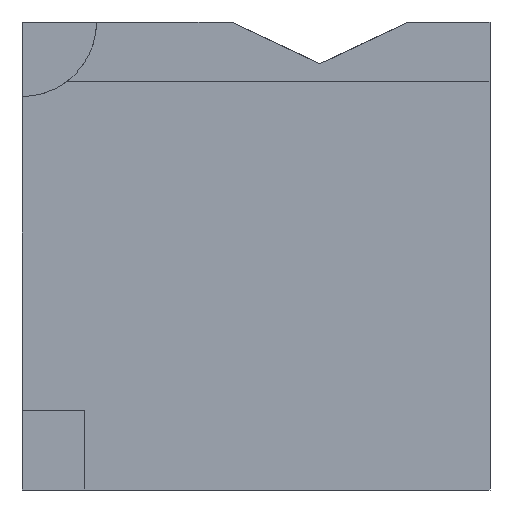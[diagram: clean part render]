
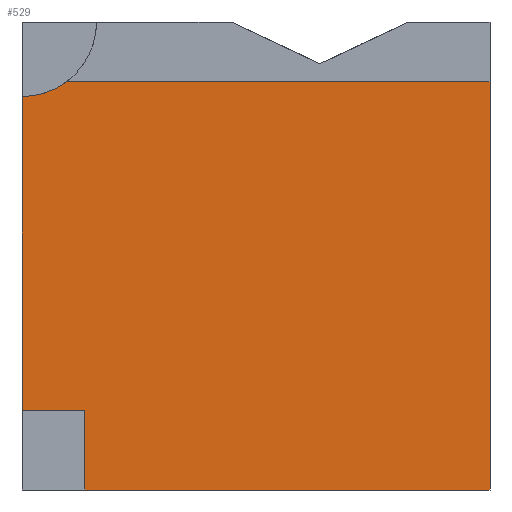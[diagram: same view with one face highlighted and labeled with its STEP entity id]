
A CAD part, front view. The second image highlights one B-rep face of the part: STEP entity #529.
In plain terms, the highlighted planar face has unit normal (0, -1, 0).
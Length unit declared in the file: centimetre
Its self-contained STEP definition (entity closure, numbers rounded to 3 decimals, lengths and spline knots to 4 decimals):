
#14 = DIRECTION ( 'NONE',  ( 1., 0., 0. ) ) ;
#21 = VERTEX_POINT ( 'NONE', #403 ) ;
#22 = CARTESIAN_POINT ( 'NONE',  ( 1000., 0., 1000. ) ) ;
#43 = VERTEX_POINT ( 'NONE', #792 ) ;
#44 = CARTESIAN_POINT ( 'NONE',  ( 1000., 0., 871.9641 ) ) ;
#45 = CARTESIAN_POINT ( 'NONE',  ( 133.5977, 0., 0. ) ) ;
#70 = ORIENTED_EDGE ( 'NONE', *, *, #617, .T. ) ;
#85 = ORIENTED_EDGE ( 'NONE', *, *, #193, .F. ) ;
#99 = EDGE_CURVE ( 'NONE', #43, #559, #517, .T. ) ;
#130 = VERTEX_POINT ( 'NONE', #653 ) ;
#145 = CARTESIAN_POINT ( 'NONE',  ( 0., 0., 1000. ) ) ;
#193 = EDGE_CURVE ( 'NONE', #429, #21, #636, .T. ) ;
#194 = DIRECTION ( 'NONE',  ( 0., 0., -1. ) ) ;
#215 = VECTOR ( 'NONE', #194, 100. ) ;
#231 = VECTOR ( 'NONE', #356, 100. ) ;
#291 = PLANE ( 'NONE',  #827 ) ;
#325 = VECTOR ( 'NONE', #537, 100. ) ;
#356 = DIRECTION ( 'NONE',  ( 0., 0., -1. ) ) ;
#361 = LINE ( 'NONE', #489, #231 ) ;
#390 = CARTESIAN_POINT ( 'NONE',  ( 133.5977, 0., 169.7912 ) ) ;
#391 = EDGE_LOOP ( 'NONE', ( #85, #397, #70, #682, #411, #609, #791 ) ) ;
#397 = ORIENTED_EDGE ( 'NONE', *, *, #824, .T. ) ;
#403 = CARTESIAN_POINT ( 'NONE',  ( 0., 0., 169.7912 ) ) ;
#411 = ORIENTED_EDGE ( 'NONE', *, *, #99, .T. ) ;
#418 = CARTESIAN_POINT ( 'NONE',  ( 94.9162, 0., 871.9641 ) ) ;
#423 = DIRECTION ( 'NONE',  ( 0., 0., -1. ) ) ;
#429 = VERTEX_POINT ( 'NONE', #390 ) ;
#489 = CARTESIAN_POINT ( 'NONE',  ( 0., 0., 1000. ) ) ;
#494 = VERTEX_POINT ( 'NONE', #680 ) ;
#517 = LINE ( 'NONE', #44, #768 ) ;
#529 = ADVANCED_FACE ( 'NONE', ( #561 ), #291, .F. ) ;
#536 = EDGE_CURVE ( 'NONE', #494, #559, #742, .T. ) ;
#537 = DIRECTION ( 'NONE',  ( 0., 0., -1. ) ) ;
#543 = AXIS2_PLACEMENT_3D ( 'NONE', #145, #558, #423 ) ;
#558 = DIRECTION ( 'NONE',  ( 0., -1., 0. ) ) ;
#559 = VERTEX_POINT ( 'NONE', #418 ) ;
#561 = FACE_OUTER_BOUND ( 'NONE', #391, .T. ) ;
#571 = CARTESIAN_POINT ( 'NONE',  ( 0., 0., 169.7912 ) ) ;
#599 = VECTOR ( 'NONE', #14, 100. ) ;
#609 = ORIENTED_EDGE ( 'NONE', *, *, #536, .F. ) ;
#617 = EDGE_CURVE ( 'NONE', #877, #130, #828, .T. ) ;
#620 = CARTESIAN_POINT ( 'NONE',  ( 0., 0., 0. ) ) ;
#623 = LINE ( 'NONE', #22, #215 ) ;
#636 = LINE ( 'NONE', #571, #640 ) ;
#640 = VECTOR ( 'NONE', #764, 100. ) ;
#653 = CARTESIAN_POINT ( 'NONE',  ( 1000., 0., 0. ) ) ;
#680 = CARTESIAN_POINT ( 'NONE',  ( 0., 0., 840.6191 ) ) ;
#682 = ORIENTED_EDGE ( 'NONE', *, *, #789, .F. ) ;
#720 = EDGE_CURVE ( 'NONE', #494, #21, #361, .T. ) ;
#742 = CIRCLE ( 'NONE', #543, 159.3809 ) ;
#764 = DIRECTION ( 'NONE',  ( -1., 0., 0. ) ) ;
#767 = DIRECTION ( 'NONE',  ( 0., 1., 0. ) ) ;
#768 = VECTOR ( 'NONE', #785, 100. ) ;
#785 = DIRECTION ( 'NONE',  ( -1., 0., 0. ) ) ;
#789 = EDGE_CURVE ( 'NONE', #43, #130, #623, .T. ) ;
#791 = ORIENTED_EDGE ( 'NONE', *, *, #720, .T. ) ;
#792 = CARTESIAN_POINT ( 'NONE',  ( 1000., 0., 871.9641 ) ) ;
#824 = EDGE_CURVE ( 'NONE', #429, #877, #865, .T. ) ;
#827 = AXIS2_PLACEMENT_3D ( 'NONE', #832, #767, #835 ) ;
#828 = LINE ( 'NONE', #620, #599 ) ;
#832 = CARTESIAN_POINT ( 'NONE',  ( 0., 0., 1000. ) ) ;
#835 = DIRECTION ( 'NONE',  ( 0., 0., 1. ) ) ;
#865 = LINE ( 'NONE', #871, #325 ) ;
#871 = CARTESIAN_POINT ( 'NONE',  ( 133.5977, 0., 169.7912 ) ) ;
#877 = VERTEX_POINT ( 'NONE', #45 ) ;
